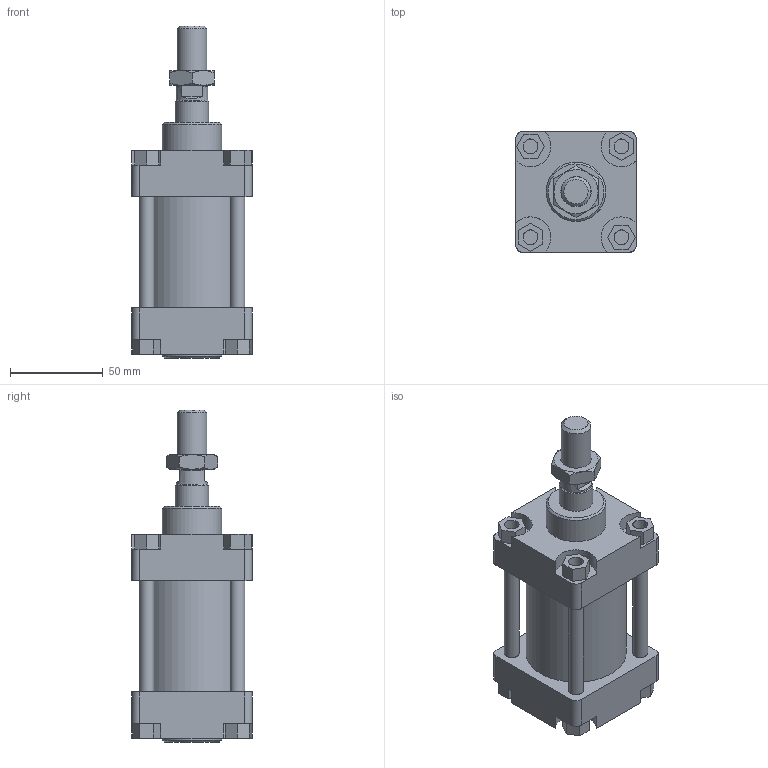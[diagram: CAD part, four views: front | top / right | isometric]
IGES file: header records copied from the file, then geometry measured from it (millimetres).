
Global section: file name: 130#_050_0000_01A; native system: Autodesk Inventor 2014; preprocessor: unknown; author: A. Manieri; date: 20161123.145344; units: millimetre
Bounding box: 65 x 65 x 179 mm (x, y, z)
Volume: 356359 mm3; surface area: 89492.4 mm2
Topology: 9 solids, 9 shells, 163 faces, 401 edges, 268 vertices
Faces by surface type: bspline 163
